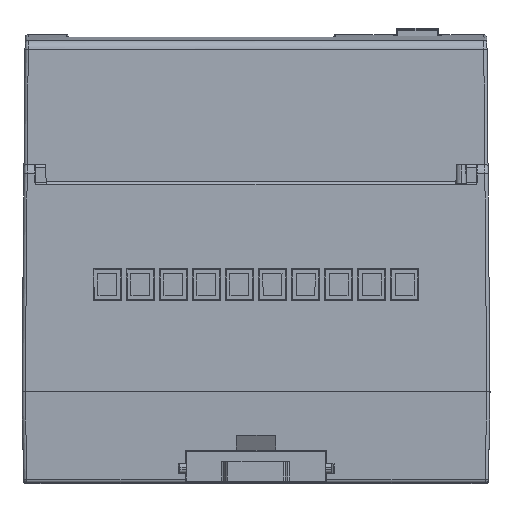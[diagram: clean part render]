
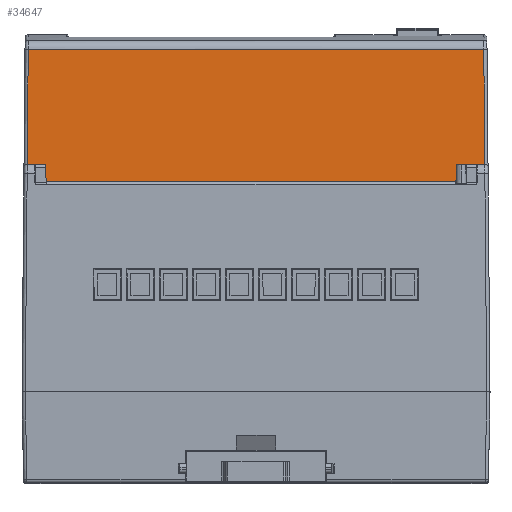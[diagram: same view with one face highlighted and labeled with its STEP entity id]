
A CAD part, top view. The second image highlights one B-rep face of the part: STEP entity #34647.
In plain terms, the highlighted planar face has unit normal (0, 0.009, 1).
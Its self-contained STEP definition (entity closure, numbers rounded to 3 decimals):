
#151 = VERTEX_POINT ( 'NONE', #36577 ) ;
#896 = EDGE_CURVE ( 'NONE', #20640, #16868, #8058, .T. ) ;
#933 = DIRECTION ( 'NONE',  ( -1., 0., 0. ) ) ;
#1897 = ORIENTED_EDGE ( 'NONE', *, *, #27381, .T. ) ;
#3618 = DIRECTION ( 'NONE',  ( 0., -1., 0.009 ) ) ;
#3933 = CARTESIAN_POINT ( 'NONE',  ( 0., 52.637, 22.319 ) ) ;
#5505 = FACE_OUTER_BOUND ( 'NONE', #28579, .T. ) ;
#8058 = LINE ( 'NONE', #15668, #24989 ) ;
#8456 = LINE ( 'NONE', #3933, #27198 ) ;
#10685 = DIRECTION ( 'NONE',  ( -0.009, -1., 0.009 ) ) ;
#11677 = VECTOR ( 'NONE', #29774, 1000. ) ;
#12937 = VERTEX_POINT ( 'NONE', #34842 ) ;
#13283 = LINE ( 'NONE', #13535, #30237 ) ;
#13535 = CARTESIAN_POINT ( 'NONE',  ( 35.219, 32.207, 22.497 ) ) ;
#13656 = DIRECTION ( 'NONE',  ( -0.009, 1., -0.009 ) ) ;
#14275 = CARTESIAN_POINT ( 'NONE',  ( -35.217, 32.396, 22.496 ) ) ;
#14983 = CARTESIAN_POINT ( 'NONE',  ( 0., 31.9, 22.5 ) ) ;
#15668 = CARTESIAN_POINT ( 'NONE',  ( -35.219, 32.207, 22.497 ) ) ;
#15896 = CARTESIAN_POINT ( 'NONE',  ( 35.722, 32.396, 22.496 ) ) ;
#16868 = VERTEX_POINT ( 'NONE', #14275 ) ;
#17346 = ORIENTED_EDGE ( 'NONE', *, *, #29385, .T. ) ;
#19237 = LINE ( 'NONE', #15896, #11677 ) ;
#20640 = VERTEX_POINT ( 'NONE', #21187 ) ;
#21187 = CARTESIAN_POINT ( 'NONE',  ( -35.041, 52.637, 22.319 ) ) ;
#21925 = ORIENTED_EDGE ( 'NONE', *, *, #896, .T. ) ;
#24989 = VECTOR ( 'NONE', #10685, 1000. ) ;
#27198 = VECTOR ( 'NONE', #933, 1000. ) ;
#27381 = EDGE_CURVE ( 'NONE', #16868, #12937, #19237, .T. ) ;
#28579 = EDGE_LOOP ( 'NONE', ( #33446, #21925, #1897, #17346 ) ) ;
#28593 = AXIS2_PLACEMENT_3D ( 'NONE', #14983, #31866, #3618 ) ;
#29385 = EDGE_CURVE ( 'NONE', #12937, #151, #13283, .T. ) ;
#29774 = DIRECTION ( 'NONE',  ( 1., 0., 0. ) ) ;
#30237 = VECTOR ( 'NONE', #13656, 1000. ) ;
#31866 = DIRECTION ( 'NONE',  ( 0., 0.009, 1. ) ) ;
#32113 = PLANE ( 'NONE',  #28593 ) ;
#33446 = ORIENTED_EDGE ( 'NONE', *, *, #36107, .T. ) ;
#34647 = ADVANCED_FACE ( 'NONE', ( #5505 ), #32113, .T. ) ;
#34842 = CARTESIAN_POINT ( 'NONE',  ( 35.217, 32.396, 22.496 ) ) ;
#36107 = EDGE_CURVE ( 'NONE', #151, #20640, #8456, .T. ) ;
#36577 = CARTESIAN_POINT ( 'NONE',  ( 35.041, 52.637, 22.319 ) ) ;
